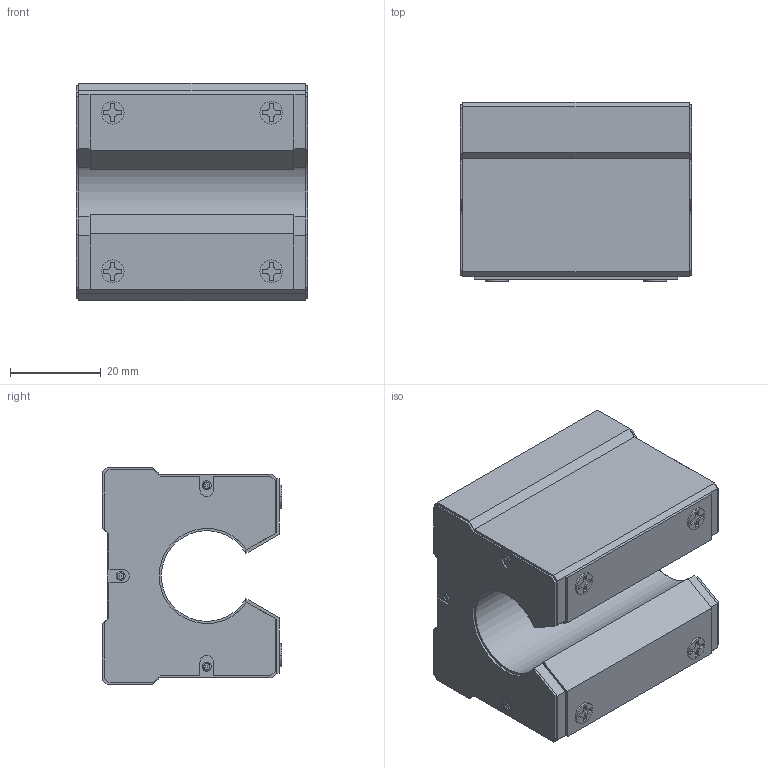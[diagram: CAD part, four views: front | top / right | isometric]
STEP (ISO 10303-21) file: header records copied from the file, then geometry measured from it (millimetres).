
FILE_DESCRIPTION (( 'STEP AP203' ), '1' );
FILE_NAME ('SME20UU.STEP', '2020-03-23T03:03:07', ( '' ), ( '' ), 'SwSTEP 2.0', 'SolidWorks 2017', '' );
FILE_SCHEMA (( 'CONFIG_CONTROL_DESIGN' ));
Length unit declared in the file: millimetre
Products named in the file (1): SME20UU
Bounding box: 51 x 39.5 x 48 mm (x, y, z)
Volume: 68987.3 mm3; surface area: 14103.8 mm2
Topology: 1 solids, 1 shells, 296 faces, 798 edges, 524 vertices
Faces by surface type: plane 239, cylinder 45, torus 12
Entity records: 9273 total; most frequent: CARTESIAN_POINT 1679, ORIENTED_EDGE 1596, DIRECTION 1490, EDGE_CURVE 798, VECTOR 676, LINE 676, VERTEX_POINT 524, AXIS2_PLACEMENT_3D 407
